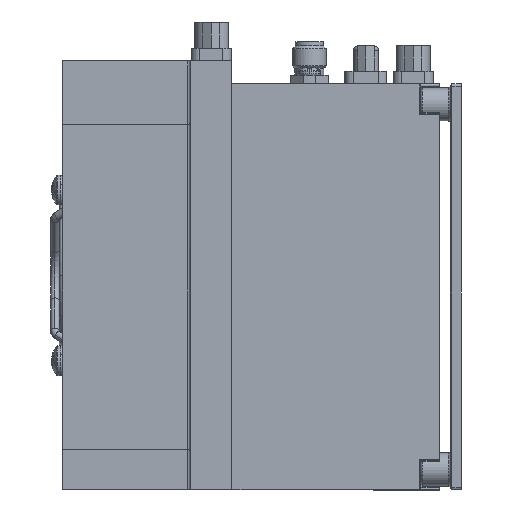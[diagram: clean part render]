
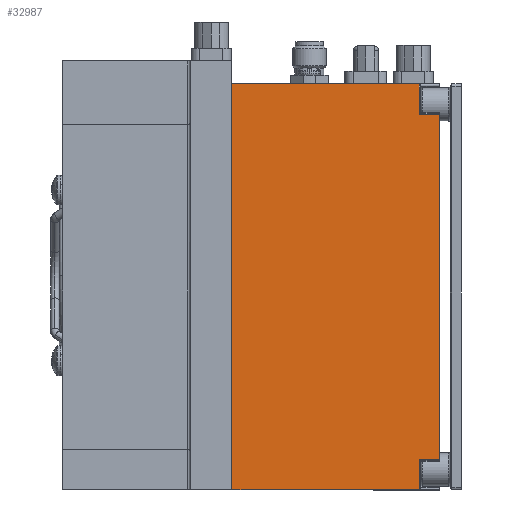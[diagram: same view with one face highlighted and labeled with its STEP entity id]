
A CAD part, left-side view. The second image highlights one B-rep face of the part: STEP entity #32987.
In plain terms, the highlighted planar face has unit normal (-1, 0, 0) as drawn and (1, 0, 0) by its records, which use the part's own axes.
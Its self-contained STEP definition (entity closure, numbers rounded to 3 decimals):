
#2067 = CARTESIAN_POINT ( 'NONE',  ( 50.8, 35.419, -32.435 ) ) ;
#2489 = DIRECTION ( 'NONE',  ( 0., 0., 1. ) ) ;
#3460 = CARTESIAN_POINT ( 'NONE',  ( 50.8, 38.975, -32.435 ) ) ;
#4510 = DIRECTION ( 'NONE',  ( 0., -1., 0. ) ) ;
#6866 = LINE ( 'NONE', #2067, #57665 ) ;
#8445 = PLANE ( 'NONE',  #8524 ) ;
#8524 = AXIS2_PLACEMENT_3D ( 'NONE', #45425, #19391, #13921 ) ;
#8710 = CARTESIAN_POINT ( 'NONE',  ( 50.8, 38.975, -38.1 ) ) ;
#12384 = EDGE_LOOP ( 'NONE', ( #19202, #59603, #36738, #13425, #66512, #60428, #16191, #20277 ) ) ;
#13425 = ORIENTED_EDGE ( 'NONE', *, *, #22369, .F. ) ;
#13754 = LINE ( 'NONE', #59681, #48958 ) ;
#13921 = DIRECTION ( 'NONE',  ( 0., 0., 1. ) ) ;
#14125 = EDGE_CURVE ( 'NONE', #28775, #37402, #15477, .T. ) ;
#14457 = CARTESIAN_POINT ( 'NONE',  ( 50.8, 38.975, 38.1 ) ) ;
#14748 = VERTEX_POINT ( 'NONE', #30979 ) ;
#15477 = LINE ( 'NONE', #52792, #56974 ) ;
#16191 = ORIENTED_EDGE ( 'NONE', *, *, #17335, .T. ) ;
#17335 = EDGE_CURVE ( 'NONE', #27569, #30178, #51419, .T. ) ;
#19202 = ORIENTED_EDGE ( 'NONE', *, *, #51260, .F. ) ;
#19391 = DIRECTION ( 'NONE',  ( -1., 0., 0. ) ) ;
#20277 = ORIENTED_EDGE ( 'NONE', *, *, #41923, .T. ) ;
#21510 = EDGE_CURVE ( 'NONE', #28775, #27569, #13754, .T. ) ;
#22369 = EDGE_CURVE ( 'NONE', #37402, #66621, #55628, .T. ) ;
#24509 = CARTESIAN_POINT ( 'NONE',  ( 50.8, 0., -38.1 ) ) ;
#25215 = FACE_OUTER_BOUND ( 'NONE', #12384, .T. ) ;
#27569 = VERTEX_POINT ( 'NONE', #41624 ) ;
#27762 = DIRECTION ( 'NONE',  ( 0., 1., 0. ) ) ;
#28775 = VERTEX_POINT ( 'NONE', #54946 ) ;
#29617 = DIRECTION ( 'NONE',  ( 0., 0., -1. ) ) ;
#30178 = VERTEX_POINT ( 'NONE', #55539 ) ;
#30520 = EDGE_CURVE ( 'NONE', #14748, #66621, #6866, .T. ) ;
#30604 = DIRECTION ( 'NONE',  ( 0., -1., 0. ) ) ;
#30979 = CARTESIAN_POINT ( 'NONE',  ( 50.8, 35.165, -32.435 ) ) ;
#32776 = VECTOR ( 'NONE', #30604, 1000. ) ;
#32987 = ADVANCED_FACE ( 'NONE', ( #25215 ), #8445, .F. ) ;
#34452 = CARTESIAN_POINT ( 'NONE',  ( 50.8, 35.165, -38.1 ) ) ;
#34777 = DIRECTION ( 'NONE',  ( 0., 0., -1. ) ) ;
#35721 = CARTESIAN_POINT ( 'NONE',  ( 50.8, 38.975, -38.1 ) ) ;
#36193 = LINE ( 'NONE', #57091, #63838 ) ;
#36738 = ORIENTED_EDGE ( 'NONE', *, *, #30520, .T. ) ;
#37402 = VERTEX_POINT ( 'NONE', #41362 ) ;
#40613 = VERTEX_POINT ( 'NONE', #34452 ) ;
#41225 = VECTOR ( 'NONE', #29617, 1000. ) ;
#41362 = CARTESIAN_POINT ( 'NONE',  ( 50.8, 38.975, 32.435 ) ) ;
#41624 = CARTESIAN_POINT ( 'NONE',  ( 50.8, 35.165, 38.1 ) ) ;
#41903 = LINE ( 'NONE', #35721, #32776 ) ;
#41923 = EDGE_CURVE ( 'NONE', #30178, #52488, #66999, .T. ) ;
#45425 = CARTESIAN_POINT ( 'NONE',  ( 50.8, 38.975, -38.1 ) ) ;
#45597 = CARTESIAN_POINT ( 'NONE',  ( 50.8, 0., -38.1 ) ) ;
#45788 = DIRECTION ( 'NONE',  ( 0., 0., 1. ) ) ;
#48958 = VECTOR ( 'NONE', #2489, 1000. ) ;
#51260 = EDGE_CURVE ( 'NONE', #40613, #52488, #41903, .T. ) ;
#51419 = LINE ( 'NONE', #14457, #58070 ) ;
#52488 = VERTEX_POINT ( 'NONE', #45597 ) ;
#52792 = CARTESIAN_POINT ( 'NONE',  ( 50.8, 35.419, 32.435 ) ) ;
#54946 = CARTESIAN_POINT ( 'NONE',  ( 50.8, 35.165, 32.435 ) ) ;
#55539 = CARTESIAN_POINT ( 'NONE',  ( 50.8, 0., 38.1 ) ) ;
#55628 = LINE ( 'NONE', #8710, #41225 ) ;
#56974 = VECTOR ( 'NONE', #57578, 1000. ) ;
#57091 = CARTESIAN_POINT ( 'NONE',  ( 50.8, 35.165, -32.435 ) ) ;
#57578 = DIRECTION ( 'NONE',  ( 0., 1., 0. ) ) ;
#57665 = VECTOR ( 'NONE', #27762, 1000. ) ;
#58070 = VECTOR ( 'NONE', #4510, 1000. ) ;
#59603 = ORIENTED_EDGE ( 'NONE', *, *, #60470, .T. ) ;
#59681 = CARTESIAN_POINT ( 'NONE',  ( 50.8, 35.165, 38.1 ) ) ;
#60428 = ORIENTED_EDGE ( 'NONE', *, *, #21510, .T. ) ;
#60470 = EDGE_CURVE ( 'NONE', #40613, #14748, #36193, .T. ) ;
#62005 = VECTOR ( 'NONE', #34777, 1000. ) ;
#63838 = VECTOR ( 'NONE', #45788, 1000. ) ;
#66512 = ORIENTED_EDGE ( 'NONE', *, *, #14125, .F. ) ;
#66621 = VERTEX_POINT ( 'NONE', #3460 ) ;
#66999 = LINE ( 'NONE', #24509, #62005 ) ;
